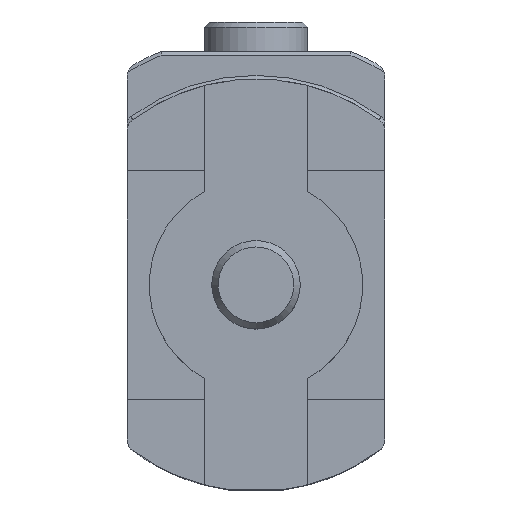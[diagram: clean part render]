
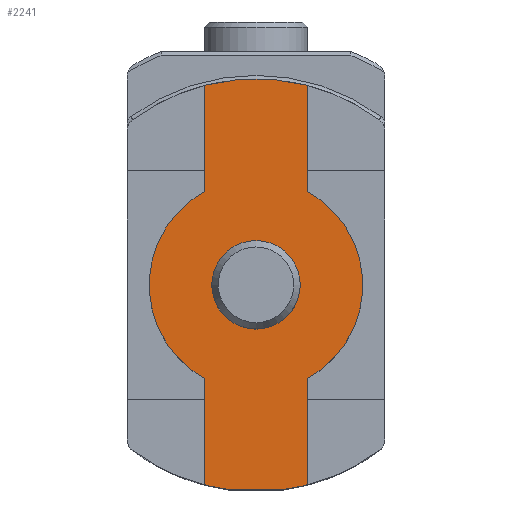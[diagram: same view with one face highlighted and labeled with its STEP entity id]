
A CAD part, top view. The second image highlights one B-rep face of the part: STEP entity #2241.
In plain terms, the highlighted planar face has unit normal (0, 0, 1).
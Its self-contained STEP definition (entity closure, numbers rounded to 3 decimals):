
#7 = VERTEX_POINT ( 'NONE', #1446 ) ;
#9 = EDGE_CURVE ( 'NONE', #2062, #2425, #1788, .T. ) ;
#14 = AXIS2_PLACEMENT_3D ( 'NONE', #320, #1279, #903 ) ;
#106 = EDGE_CURVE ( 'NONE', #1063, #1228, #677, .T. ) ;
#109 = CIRCLE ( 'NONE', #438, 28. ) ;
#114 = CARTESIAN_POINT ( 'NONE',  ( 0., 0., 45.5 ) ) ;
#135 = ORIENTED_EDGE ( 'NONE', *, *, #789, .T. ) ;
#191 = CIRCLE ( 'NONE', #849, 14.5 ) ;
#198 = CARTESIAN_POINT ( 'NONE',  ( 0., 0., 45.5 ) ) ;
#242 = AXIS2_PLACEMENT_3D ( 'NONE', #1479, #549, #2286 ) ;
#270 = DIRECTION ( 'NONE',  ( 1., 0., 0. ) ) ;
#295 = EDGE_LOOP ( 'NONE', ( #949, #300, #2462, #2396, #1722, #2257, #1300, #1371, #2008, #135 ) ) ;
#300 = ORIENTED_EDGE ( 'NONE', *, *, #9, .T. ) ;
#315 = DIRECTION ( 'NONE',  ( 0., 0., 1. ) ) ;
#320 = CARTESIAN_POINT ( 'NONE',  ( 0., 0., 45.5 ) ) ;
#341 = CARTESIAN_POINT ( 'NONE',  ( 0., 0., 45.5 ) ) ;
#354 = CARTESIAN_POINT ( 'NONE',  ( -3.733, -27.75, 45.5 ) ) ;
#415 = LINE ( 'NONE', #1983, #979 ) ;
#419 = DIRECTION ( 'NONE',  ( 1., 0., 0. ) ) ;
#438 = AXIS2_PLACEMENT_3D ( 'NONE', #341, #315, #699 ) ;
#517 = CARTESIAN_POINT ( 'NONE',  ( -7., 27.111, 45.5 ) ) ;
#530 = EDGE_CURVE ( 'NONE', #1038, #7, #1830, .T. ) ;
#549 = DIRECTION ( 'NONE',  ( 0., 0., 1. ) ) ;
#577 = DIRECTION ( 'NONE',  ( 0., 0., 1. ) ) ;
#677 = CIRCLE ( 'NONE', #803, 28. ) ;
#694 = CARTESIAN_POINT ( 'NONE',  ( 7., -12.698, 45.5 ) ) ;
#699 = DIRECTION ( 'NONE',  ( 1., 0., 0. ) ) ;
#789 = EDGE_CURVE ( 'NONE', #1923, #2371, #415, .T. ) ;
#800 = EDGE_CURVE ( 'NONE', #2371, #2062, #191, .T. ) ;
#803 = AXIS2_PLACEMENT_3D ( 'NONE', #114, #1903, #2074 ) ;
#813 = PLANE ( 'NONE',  #1504 ) ;
#845 = LINE ( 'NONE', #1103, #1023 ) ;
#849 = AXIS2_PLACEMENT_3D ( 'NONE', #1622, #1598, #2376 ) ;
#850 = EDGE_CURVE ( 'NONE', #1273, #1038, #2229, .T. ) ;
#903 = DIRECTION ( 'NONE',  ( 1., 0., 0. ) ) ;
#907 = CIRCLE ( 'NONE', #242, 28. ) ;
#949 = ORIENTED_EDGE ( 'NONE', *, *, #800, .T. ) ;
#979 = VECTOR ( 'NONE', #2388, 1000. ) ;
#991 = CARTESIAN_POINT ( 'NONE',  ( 0., 0., 45.5 ) ) ;
#1009 = CARTESIAN_POINT ( 'NONE',  ( 7., 12.698, 45.5 ) ) ;
#1023 = VECTOR ( 'NONE', #270, 1000. ) ;
#1024 = CARTESIAN_POINT ( 'NONE',  ( 3.733, -27.75, 45.5 ) ) ;
#1038 = VERTEX_POINT ( 'NONE', #1392 ) ;
#1063 = VERTEX_POINT ( 'NONE', #1833 ) ;
#1103 = CARTESIAN_POINT ( 'NONE',  ( -3.733, -27.75, 45.5 ) ) ;
#1174 = VECTOR ( 'NONE', #1200, 1000. ) ;
#1200 = DIRECTION ( 'NONE',  ( 0., 1., 0. ) ) ;
#1228 = VERTEX_POINT ( 'NONE', #354 ) ;
#1273 = VERTEX_POINT ( 'NONE', #517 ) ;
#1278 = EDGE_LOOP ( 'NONE', ( #1817 ) ) ;
#1279 = DIRECTION ( 'NONE',  ( 0., 0., 1. ) ) ;
#1286 = LINE ( 'NONE', #1676, #2405 ) ;
#1300 = ORIENTED_EDGE ( 'NONE', *, *, #106, .T. ) ;
#1308 = CARTESIAN_POINT ( 'NONE',  ( 5., 0., 45.5 ) ) ;
#1371 = ORIENTED_EDGE ( 'NONE', *, *, #2054, .T. ) ;
#1383 = CIRCLE ( 'NONE', #1713, 5. ) ;
#1391 = CARTESIAN_POINT ( 'NONE',  ( 7., -27.111, 45.5 ) ) ;
#1392 = CARTESIAN_POINT ( 'NONE',  ( -7., 12.698, 45.5 ) ) ;
#1446 = CARTESIAN_POINT ( 'NONE',  ( -7., -12.698, 45.5 ) ) ;
#1479 = CARTESIAN_POINT ( 'NONE',  ( 0., 0., 45.5 ) ) ;
#1497 = VERTEX_POINT ( 'NONE', #1308 ) ;
#1504 = AXIS2_PLACEMENT_3D ( 'NONE', #198, #577, #1592 ) ;
#1589 = CARTESIAN_POINT ( 'NONE',  ( -7., 12.698, 45.5 ) ) ;
#1592 = DIRECTION ( 'NONE',  ( 1., 0., 0. ) ) ;
#1598 = DIRECTION ( 'NONE',  ( 0., 0., 1. ) ) ;
#1622 = CARTESIAN_POINT ( 'NONE',  ( 0., 0., 45.5 ) ) ;
#1636 = DIRECTION ( 'NONE',  ( 0., -1., 0. ) ) ;
#1647 = CARTESIAN_POINT ( 'NONE',  ( 7., 12.698, 45.5 ) ) ;
#1651 = EDGE_CURVE ( 'NONE', #2283, #1923, #109, .T. ) ;
#1676 = CARTESIAN_POINT ( 'NONE',  ( -7., -27.111, 45.5 ) ) ;
#1713 = AXIS2_PLACEMENT_3D ( 'NONE', #991, #2177, #419 ) ;
#1722 = ORIENTED_EDGE ( 'NONE', *, *, #530, .T. ) ;
#1788 = LINE ( 'NONE', #1009, #1174 ) ;
#1800 = FACE_OUTER_BOUND ( 'NONE', #295, .T. ) ;
#1817 = ORIENTED_EDGE ( 'NONE', *, *, #2268, .F. ) ;
#1830 = CIRCLE ( 'NONE', #14, 14.5 ) ;
#1833 = CARTESIAN_POINT ( 'NONE',  ( -7., -27.111, 45.5 ) ) ;
#1841 = CARTESIAN_POINT ( 'NONE',  ( 7., 27.111, 45.5 ) ) ;
#1903 = DIRECTION ( 'NONE',  ( 0., 0., 1. ) ) ;
#1923 = VERTEX_POINT ( 'NONE', #1391 ) ;
#1974 = DIRECTION ( 'NONE',  ( 0., -1., 0. ) ) ;
#1983 = CARTESIAN_POINT ( 'NONE',  ( 7., -27.111, 45.5 ) ) ;
#2008 = ORIENTED_EDGE ( 'NONE', *, *, #1651, .T. ) ;
#2054 = EDGE_CURVE ( 'NONE', #1228, #2283, #845, .T. ) ;
#2062 = VERTEX_POINT ( 'NONE', #1647 ) ;
#2066 = EDGE_CURVE ( 'NONE', #7, #1063, #1286, .T. ) ;
#2074 = DIRECTION ( 'NONE',  ( 1., 0., 0. ) ) ;
#2123 = FACE_BOUND ( 'NONE', #1278, .T. ) ;
#2177 = DIRECTION ( 'NONE',  ( 0., 0., 1. ) ) ;
#2229 = LINE ( 'NONE', #1589, #2437 ) ;
#2241 = ADVANCED_FACE ( 'NONE', ( #2123, #1800 ), #813, .T. ) ;
#2257 = ORIENTED_EDGE ( 'NONE', *, *, #2066, .T. ) ;
#2268 = EDGE_CURVE ( 'NONE', #1497, #1497, #1383, .T. ) ;
#2283 = VERTEX_POINT ( 'NONE', #1024 ) ;
#2286 = DIRECTION ( 'NONE',  ( 1., 0., 0. ) ) ;
#2371 = VERTEX_POINT ( 'NONE', #694 ) ;
#2376 = DIRECTION ( 'NONE',  ( 1., 0., 0. ) ) ;
#2388 = DIRECTION ( 'NONE',  ( 0., 1., 0. ) ) ;
#2396 = ORIENTED_EDGE ( 'NONE', *, *, #850, .T. ) ;
#2405 = VECTOR ( 'NONE', #1636, 1000. ) ;
#2425 = VERTEX_POINT ( 'NONE', #1841 ) ;
#2437 = VECTOR ( 'NONE', #1974, 1000. ) ;
#2462 = ORIENTED_EDGE ( 'NONE', *, *, #2508, .T. ) ;
#2508 = EDGE_CURVE ( 'NONE', #2425, #1273, #907, .T. ) ;
